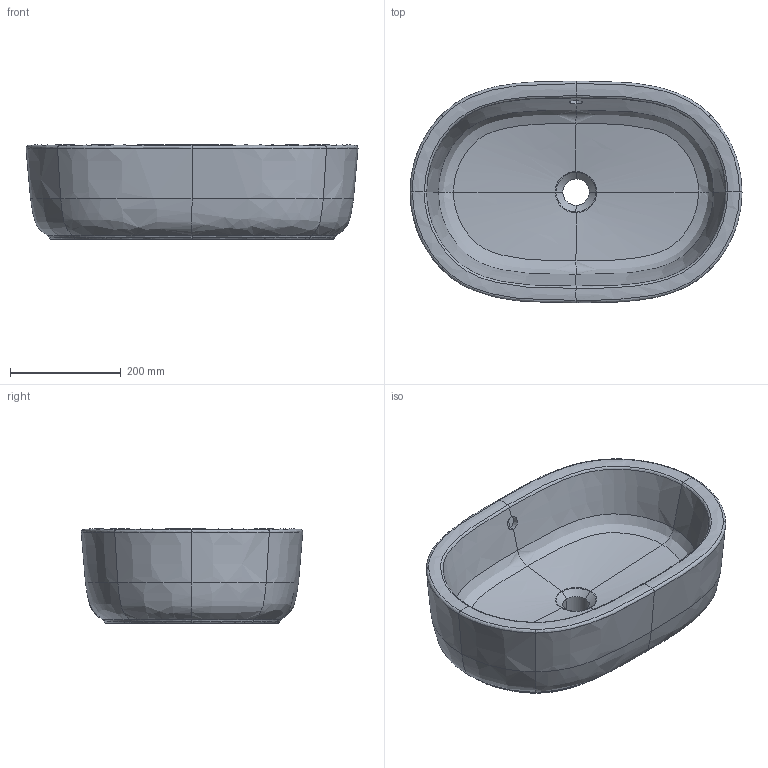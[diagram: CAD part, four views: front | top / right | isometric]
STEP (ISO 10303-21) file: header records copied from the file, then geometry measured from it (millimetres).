
FILE_DESCRIPTION(/* description */ (''),/* implementation_level */ '2;1');
FILE_NAME(/* name */ '412660_Architectura_Oval_AWT.stp',/* time_stamp */ '2018-11-21T09:33:50+01:00',/* author */ (''),/* organization */ (''),/* preprocessor_version */ 'ST-DEVELOPER v16',/* originating_system */ 'SIEMENS PLM Software NX 10.0',/* authorisation */ '');
FILE_SCHEMA (('AUTOMOTIVE_DESIGN { 1 0 10303 214 3 1 1 1 }'));
Length unit declared in the file: millimetre
Products named in the file (1): Sier1884FB70j3yl
Bounding box: 600 x 400.33 x 170 mm (x, y, z)
Volume: 16053997.4 mm3; surface area: 738836.3 mm2
Topology: 1 solids, 1 shells, 88 faces, 229 edges, 141 vertices
Faces by surface type: bspline 82, plane 4, extrusion 2
Entity records: 16072 total; most frequent: CARTESIAN_POINT 14626, ORIENTED_EDGE 458, EDGE_CURVE 229, B_SPLINE_CURVE_WITH_KNOTS 198, VERTEX_POINT 141, ADVANCED_FACE 88, FACE_OUTER_BOUND 88, EDGE_LOOP 88
